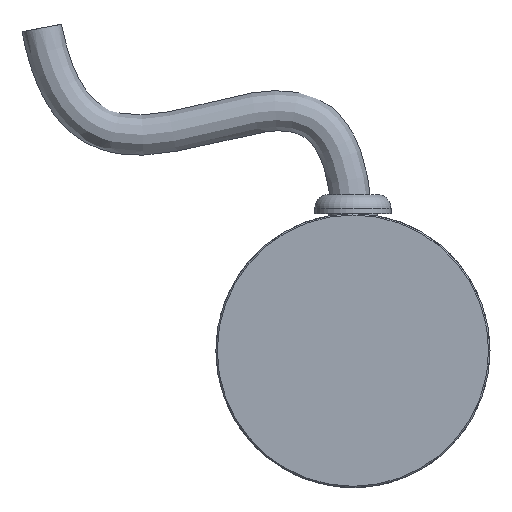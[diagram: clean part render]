
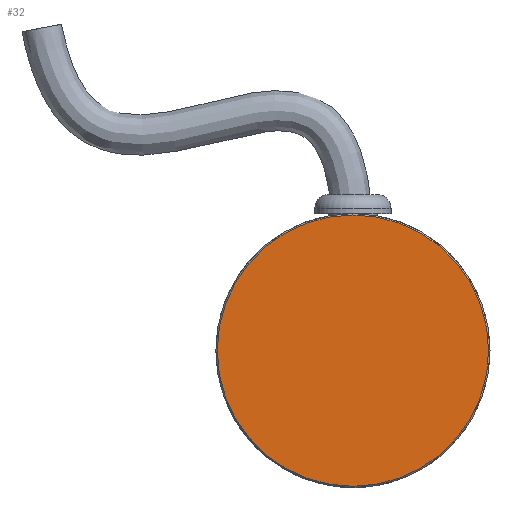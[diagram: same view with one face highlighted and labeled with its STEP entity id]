
A CAD part, front view. The second image highlights one B-rep face of the part: STEP entity #32.
In plain terms, the highlighted planar face has unit normal (0, -1, 0).
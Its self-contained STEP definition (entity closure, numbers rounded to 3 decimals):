
#32 = ADVANCED_FACE ( 'NONE', ( #662 ), #860, .T. ) ;
#105 = ORIENTED_EDGE ( 'NONE', *, *, #291, .T. ) ;
#291 = EDGE_CURVE ( 'NONE', #1942, #1942, #2062, .T. ) ;
#358 = DIRECTION ( 'NONE',  ( 0., -1., 0. ) ) ;
#481 = AXIS2_PLACEMENT_3D ( 'NONE', #991, #1331, #1035 ) ;
#662 = FACE_OUTER_BOUND ( 'NONE', #2140, .T. ) ;
#860 = PLANE ( 'NONE',  #481 ) ;
#991 = CARTESIAN_POINT ( 'NONE',  ( -13., -2., 0. ) ) ;
#997 = CARTESIAN_POINT ( 'NONE',  ( 0., -2., 0. ) ) ;
#1035 = DIRECTION ( 'NONE',  ( 0., 0., 1. ) ) ;
#1331 = DIRECTION ( 'NONE',  ( 0., -1., 0. ) ) ;
#1847 = DIRECTION ( 'NONE',  ( 0., 0., 1. ) ) ;
#1922 = CARTESIAN_POINT ( 'NONE',  ( 0., -2., 19.6 ) ) ;
#1942 = VERTEX_POINT ( 'NONE', #1922 ) ;
#1988 = AXIS2_PLACEMENT_3D ( 'NONE', #997, #358, #1847 ) ;
#2062 = CIRCLE ( 'NONE', #1988, 19.6 ) ;
#2140 = EDGE_LOOP ( 'NONE', ( #105 ) ) ;
